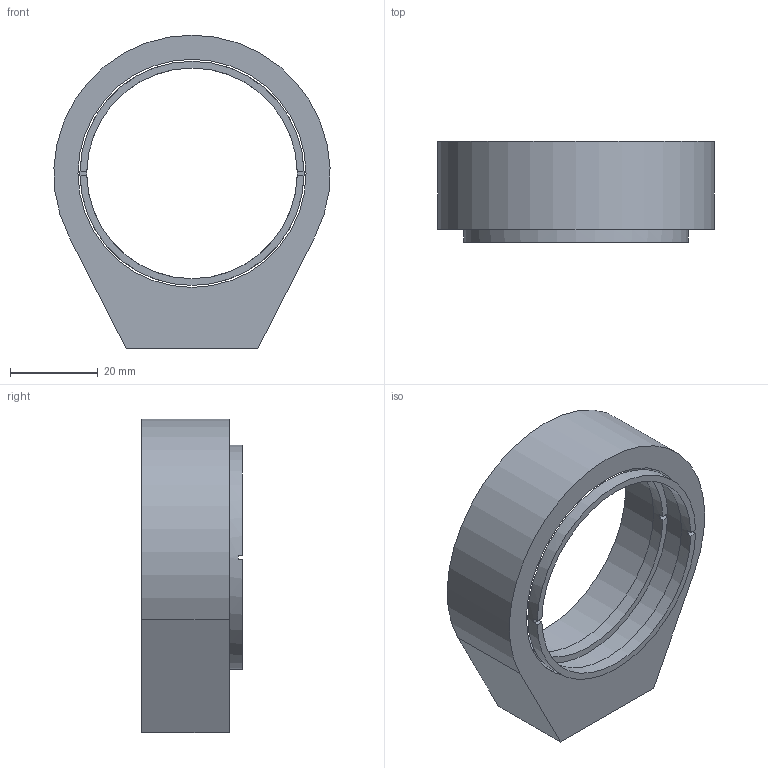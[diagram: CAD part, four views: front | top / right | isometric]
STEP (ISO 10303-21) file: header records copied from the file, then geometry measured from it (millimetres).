
FILE_DESCRIPTION(('Bauteilbeschreibung','HiCAD-Model','HiCAD-STEP-TRANSLATION','Bauteilbeschreibung'),'2;1');
FILE_NAME('P:/024507000.STP','2019-10-10T15:21:44+00:00',('Konstrukteur'),('Konstrukteur Firma GmbH'),' HiCAD 2010, Step 1501.1 ','HiCAD 2010','confidential');
FILE_SCHEMA(('AUTOMOTIVE_DESIGN { 1 2 10303 214 0 1 1 1 }'));
Length unit declared in the file: millimetre
Products named in the file (5): A24507000; A24507000_FASSUNG 50_8; A36057014_VORSCHRAUBRING M52X0; A24507011_FASSUNG _50_8_1; A360570140VORSCHRAUBRING0M52X0
Assembly tree (4 placements, depth 3):
  A24507000
    A24507000_FASSUNG 50_8
      A36057014_VORSCHRAUBRING M52X0
      A24507011_FASSUNG _50_8_1
      A360570140VORSCHRAUBRING0M52X0
Bounding box: 62.95 x 23 x 71.5 mm (x, y, z)
Volume: 29104.6 mm3; surface area: 13707.4 mm2
Topology: 3 solids, 3 shells, 41 faces, 106 edges, 72 vertices
Faces by surface type: plane 26, cylinder 12, cone 3
Full cylindrical faces by diameter (mm): 3.141 x2, 4 x2, 4.773 x1, 6 x1, 48 x2, 51.08 x2, 52 x1
Entity records: 1614 total; most frequent: DIRECTION 212, CARTESIAN_POINT 188, ORIENTED_EDGE 156, AXIS2_PLACEMENT_3D 85, COLOUR_RGB 81, PRESENTATION_STYLE_ASSIGNMENT 81, CURVE_STYLE 78, DRAUGHTING_PRE_DEFINED_CURVE_FONT 78
